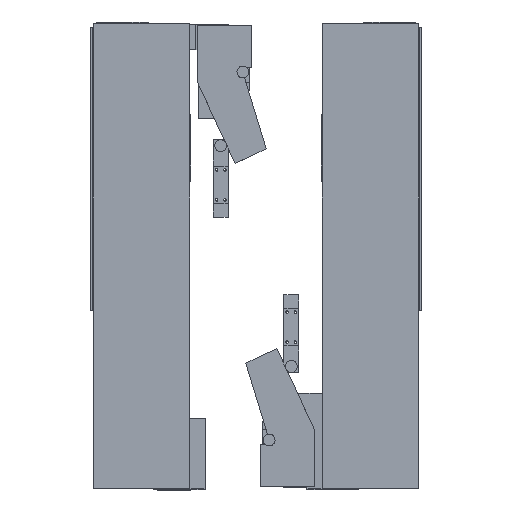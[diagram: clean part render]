
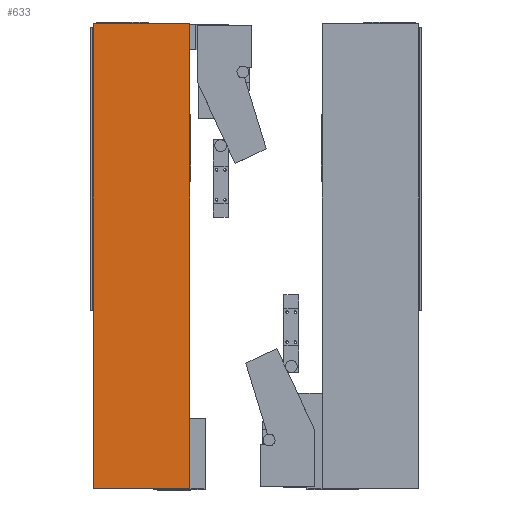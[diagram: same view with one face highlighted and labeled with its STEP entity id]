
A CAD part, top view. The second image highlights one B-rep face of the part: STEP entity #633.
In plain terms, the highlighted planar face has unit normal (0, 0, 1).
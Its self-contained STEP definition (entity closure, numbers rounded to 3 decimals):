
#633=ADVANCED_FACE('',(#1819),#1820,.T.);
#1819=FACE_OUTER_BOUND('',#3685,.T.);
#1820=PLANE('',#3686);
#3685=EDGE_LOOP('',(#5600,#5601,#5602,#5603));
#3686=AXIS2_PLACEMENT_3D('',#5604,#5605,#5606);
#5600=ORIENTED_EDGE('',*,*,#11032,.F.);
#5601=ORIENTED_EDGE('',*,*,#10992,.T.);
#5602=ORIENTED_EDGE('',*,*,#10996,.T.);
#5603=ORIENTED_EDGE('',*,*,#11033,.T.);
#5604=CARTESIAN_POINT('',(0.,375.0,38.5));
#5605=DIRECTION('',(0.0,0.0,1.0));
#5606=DIRECTION('',(-1.0,0.,0.0));
#10992=EDGE_CURVE('',#13179,#13177,#13180,.T.);
#10996=EDGE_CURVE('',#13177,#13183,#13186,.T.);
#11032=EDGE_CURVE('',#13179,#13233,#13234,.T.);
#11033=EDGE_CURVE('',#13183,#13233,#13235,.T.);
#13177=VERTEX_POINT('',#16407);
#13179=VERTEX_POINT('',#16410);
#13180=LINE('',#16411,#16412);
#13183=VERTEX_POINT('',#16416);
#13186=LINE('',#16420,#16421);
#13233=VERTEX_POINT('',#16488);
#13234=LINE('',#16489,#16490);
#13235=LINE('',#16491,#16492);
#16407=CARTESIAN_POINT('',(-106.4,3.1,38.5));
#16410=CARTESIAN_POINT('',(-261.0,3.1,38.5));
#16411=CARTESIAN_POINT('',(-222.35,3.1,38.5));
#16412=VECTOR('',#20800,10.0);
#16416=CARTESIAN_POINT('',(-106.4,746.9,38.5));
#16420=CARTESIAN_POINT('',(-106.4,560.95,38.5));
#16421=VECTOR('',#20803,10.0);
#16488=CARTESIAN_POINT('',(-261.0,746.9,38.5));
#16489=CARTESIAN_POINT('',(-261.0,374.975,38.5));
#16490=VECTOR('',#20833,1.0);
#16491=CARTESIAN_POINT('',(0.,746.9,38.5));
#16492=VECTOR('',#20834,1.0);
#20800=DIRECTION('',(1.0,0.,0.0));
#20803=DIRECTION('',(0.,1.0,0.0));
#20833=DIRECTION('',(0.0,1.0,0.0));
#20834=DIRECTION('',(-1.0,0.,0.0));
